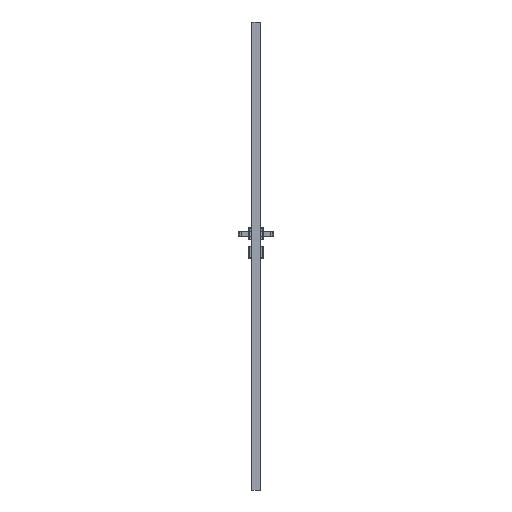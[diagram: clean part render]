
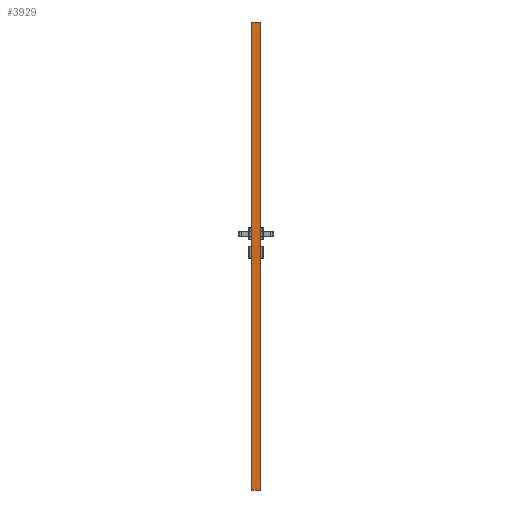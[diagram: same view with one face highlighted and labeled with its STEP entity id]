
A CAD part, left-side view. The second image highlights one B-rep face of the part: STEP entity #3929.
In plain terms, the highlighted planar face has unit normal (-1, 0, 0).
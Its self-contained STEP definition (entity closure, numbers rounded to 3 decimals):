
#3929=ADVANCED_FACE('',(#6623),#5361,.F.);
#5361=PLANE('',#32886);
#6623=FACE_OUTER_BOUND('',#8375,.T.);
#8375=EDGE_LOOP('',(#14494,#14495,#14496,#14497));
#14494=ORIENTED_EDGE('',*,*,#23792,.T.);
#14495=ORIENTED_EDGE('',*,*,#23793,.T.);
#14496=ORIENTED_EDGE('',*,*,#23794,.F.);
#14497=ORIENTED_EDGE('',*,*,#23795,.T.);
#20096=VERTEX_POINT('',#50312);
#20097=VERTEX_POINT('',#50313);
#20098=VERTEX_POINT('',#50315);
#20099=VERTEX_POINT('',#50317);
#23792=EDGE_CURVE('',#20096,#20097,#27506,.T.);
#23793=EDGE_CURVE('',#20097,#20098,#27507,.T.);
#23794=EDGE_CURVE('',#20099,#20098,#27508,.T.);
#23795=EDGE_CURVE('',#20099,#20096,#27509,.T.);
#27506=LINE('',#50311,#30386);
#27507=LINE('',#50314,#30387);
#27508=LINE('',#50316,#30388);
#27509=LINE('',#50318,#30389);
#30386=VECTOR('',#39231,1.);
#30387=VECTOR('',#39232,1.);
#30388=VECTOR('',#39233,1.);
#30389=VECTOR('',#39234,1.);
#32886=AXIS2_PLACEMENT_3D('',#50319,#39235,#39236);
#39231=DIRECTION('',(0.,0.,1.));
#39232=DIRECTION('',(0.,1.,0.));
#39233=DIRECTION('',(0.,0.,1.));
#39234=DIRECTION('',(0.,-1.,0.));
#39235=DIRECTION('',(1.,0.,0.));
#39236=DIRECTION('',(0.,1.,0.));
#50311=CARTESIAN_POINT('',(-309.,-38.35,0.));
#50312=CARTESIAN_POINT('',(-309.,-38.35,0.));
#50313=CARTESIAN_POINT('',(-309.,-38.35,2017.01));
#50314=CARTESIAN_POINT('',(-309.,0.,2017.01));
#50315=CARTESIAN_POINT('',(-309.,-1.65,2017.01));
#50316=CARTESIAN_POINT('',(-309.,-1.65,0.));
#50317=CARTESIAN_POINT('',(-309.,-1.65,0.));
#50318=CARTESIAN_POINT('',(-309.,-38.35,0.));
#50319=CARTESIAN_POINT('',(-309.,-38.35,0.));
